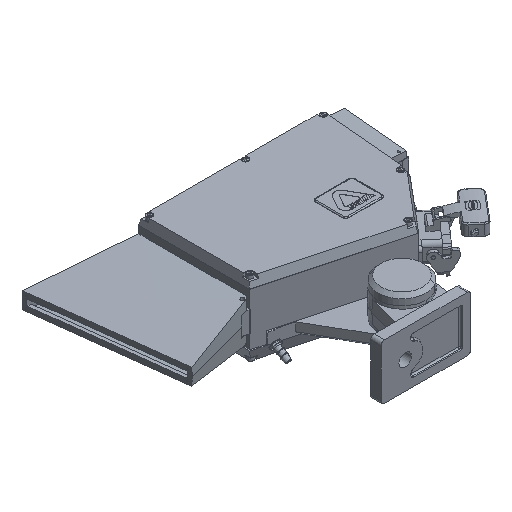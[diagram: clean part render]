
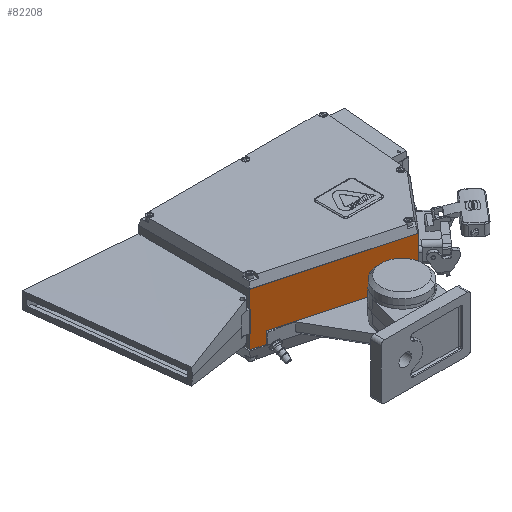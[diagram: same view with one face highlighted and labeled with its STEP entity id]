
A CAD part, isometric view. The second image highlights one B-rep face of the part: STEP entity #82208.
In plain terms, the highlighted planar face has unit normal (-0.259, -0.966, 0).
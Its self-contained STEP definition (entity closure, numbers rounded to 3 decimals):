
#24668 = CARTESIAN_POINT ( 'NONE',  ( 1823.886, 219.273, 80. ) ) ;
#24669 = DIRECTION ( 'NONE',  ( 0., 0., -1. ) ) ;
#24670 = VECTOR ( 'NONE', #24669, 1000. ) ;
#24671 = CARTESIAN_POINT ( 'NONE',  ( 1823.886, 219.273, 80. ) ) ;
#24672 = LINE ( 'NONE', #24671, #24670 ) ;
#24773 = CARTESIAN_POINT ( 'NONE',  ( 1823.886, 219.273, 4. ) ) ;
#24809 = DIRECTION ( 'NONE',  ( 0.966, -0.259, 0. ) ) ;
#24810 = VECTOR ( 'NONE', #24809, 1000. ) ;
#24811 = CARTESIAN_POINT ( 'NONE',  ( 1823.886, 219.273, 80. ) ) ;
#24812 = LINE ( 'NONE', #24811, #24810 ) ;
#24813 = CARTESIAN_POINT ( 'NONE',  ( 2017.781, 167.319, 80. ) ) ;
#24814 = DIRECTION ( 'NONE',  ( 0., 0., -1. ) ) ;
#24815 = VECTOR ( 'NONE', #24814, 1000. ) ;
#24816 = CARTESIAN_POINT ( 'NONE',  ( 2017.781, 167.319, 80. ) ) ;
#24817 = LINE ( 'NONE', #24816, #24815 ) ;
#24818 = CARTESIAN_POINT ( 'NONE',  ( 2017.781, 167.319, 4. ) ) ;
#24819 = DIRECTION ( 'NONE',  ( -0.966, 0.259, 0. ) ) ;
#24820 = VECTOR ( 'NONE', #24819, 1000. ) ;
#24821 = CARTESIAN_POINT ( 'NONE',  ( 1999.591, 172.193, 4. ) ) ;
#24822 = LINE ( 'NONE', #24821, #24820 ) ;
#24823 = CARTESIAN_POINT ( 'NONE',  ( 1999.591, 172.193, 4. ) ) ;
#24824 = DIRECTION ( 'NONE',  ( 0.168, -0.045, -0.985 ) ) ;
#24825 = VECTOR ( 'NONE', #24824, 1000. ) ;
#24826 = CARTESIAN_POINT ( 'NONE',  ( 1999.591, 172.193, 4. ) ) ;
#24827 = LINE ( 'NONE', #24826, #24825 ) ;
#24837 = CARTESIAN_POINT ( 'NONE',  ( 1996.695, 172.969, 21. ) ) ;
#24838 = DIRECTION ( 'NONE',  ( 0.966, -0.259, 0. ) ) ;
#24839 = VECTOR ( 'NONE', #24838, 1000. ) ;
#24840 = CARTESIAN_POINT ( 'NONE',  ( 1823.886, 219.273, 21. ) ) ;
#24841 = LINE ( 'NONE', #24840, #24839 ) ;
#24842 = CARTESIAN_POINT ( 'NONE',  ( 1842.886, 214.182, 21. ) ) ;
#24843 = DIRECTION ( 'NONE',  ( 0., 0., -1. ) ) ;
#24844 = VECTOR ( 'NONE', #24843, 1000. ) ;
#24845 = CARTESIAN_POINT ( 'NONE',  ( 1842.886, 214.182, 500000. ) ) ;
#24846 = LINE ( 'NONE', #24845, #24844 ) ;
#24847 = CARTESIAN_POINT ( 'NONE',  ( 1842.886, 214.182, 4. ) ) ;
#24848 = DIRECTION ( 'NONE',  ( -0.966, 0.259, 0. ) ) ;
#24849 = VECTOR ( 'NONE', #24848, 1000. ) ;
#24850 = CARTESIAN_POINT ( 'NONE',  ( 1823.886, 219.273, 4. ) ) ;
#24851 = LINE ( 'NONE', #24850, #24849 ) ;
#24852 = DIRECTION ( 'NONE',  ( -0.966, 0.259, 0. ) ) ;
#24853 = DIRECTION ( 'NONE',  ( 0.259, 0.966, 0. ) ) ;
#24854 = CARTESIAN_POINT ( 'NONE',  ( 1823.886, 219.273, 80. ) ) ;
#24855 = AXIS2_PLACEMENT_3D ( 'NONE', #24854, #24853, #24852 ) ;
#24856 = PLANE ( 'NONE',  #24855 ) ;
#24857 = FACE_OUTER_BOUND ( 'NONE', #82209, .T. ) ;
#82097 = EDGE_CURVE ( 'NONE', #82098, #82182, #24672, .T. ) ;
#82098 = VERTEX_POINT ( 'NONE', #24668 ) ;
#82182 = VERTEX_POINT ( 'NONE', #24773 ) ;
#82192 = ORIENTED_EDGE ( 'NONE', *, *, #82193, .T. ) ;
#82193 = EDGE_CURVE ( 'NONE', #82220, #82194, #24827, .T. ) ;
#82194 = VERTEX_POINT ( 'NONE', #24823 ) ;
#82195 = ORIENTED_EDGE ( 'NONE', *, *, #82196, .F. ) ;
#82196 = EDGE_CURVE ( 'NONE', #82197, #82194, #24822, .T. ) ;
#82197 = VERTEX_POINT ( 'NONE', #24818 ) ;
#82198 = ORIENTED_EDGE ( 'NONE', *, *, #82199, .F. ) ;
#82199 = EDGE_CURVE ( 'NONE', #82200, #82197, #24817, .T. ) ;
#82200 = VERTEX_POINT ( 'NONE', #24813 ) ;
#82201 = ORIENTED_EDGE ( 'NONE', *, *, #82202, .F. ) ;
#82202 = EDGE_CURVE ( 'NONE', #82098, #82200, #24812, .T. ) ;
#82208 = ADVANCED_FACE ( 'NONE', ( #24857 ), #24856, .F. ) ;
#82209 = EDGE_LOOP ( 'NONE', ( #82210, #82211, #82214, #82218, #82192, #82195, #82198, #82201 ) ) ;
#82210 = ORIENTED_EDGE ( 'NONE', *, *, #82097, .T. ) ;
#82211 = ORIENTED_EDGE ( 'NONE', *, *, #82212, .F. ) ;
#82212 = EDGE_CURVE ( 'NONE', #82213, #82182, #24851, .T. ) ;
#82213 = VERTEX_POINT ( 'NONE', #24847 ) ;
#82214 = ORIENTED_EDGE ( 'NONE', *, *, #82215, .F. ) ;
#82215 = EDGE_CURVE ( 'NONE', #82216, #82213, #24846, .T. ) ;
#82216 = VERTEX_POINT ( 'NONE', #24842 ) ;
#82218 = ORIENTED_EDGE ( 'NONE', *, *, #82219, .T. ) ;
#82219 = EDGE_CURVE ( 'NONE', #82216, #82220, #24841, .T. ) ;
#82220 = VERTEX_POINT ( 'NONE', #24837 ) ;
